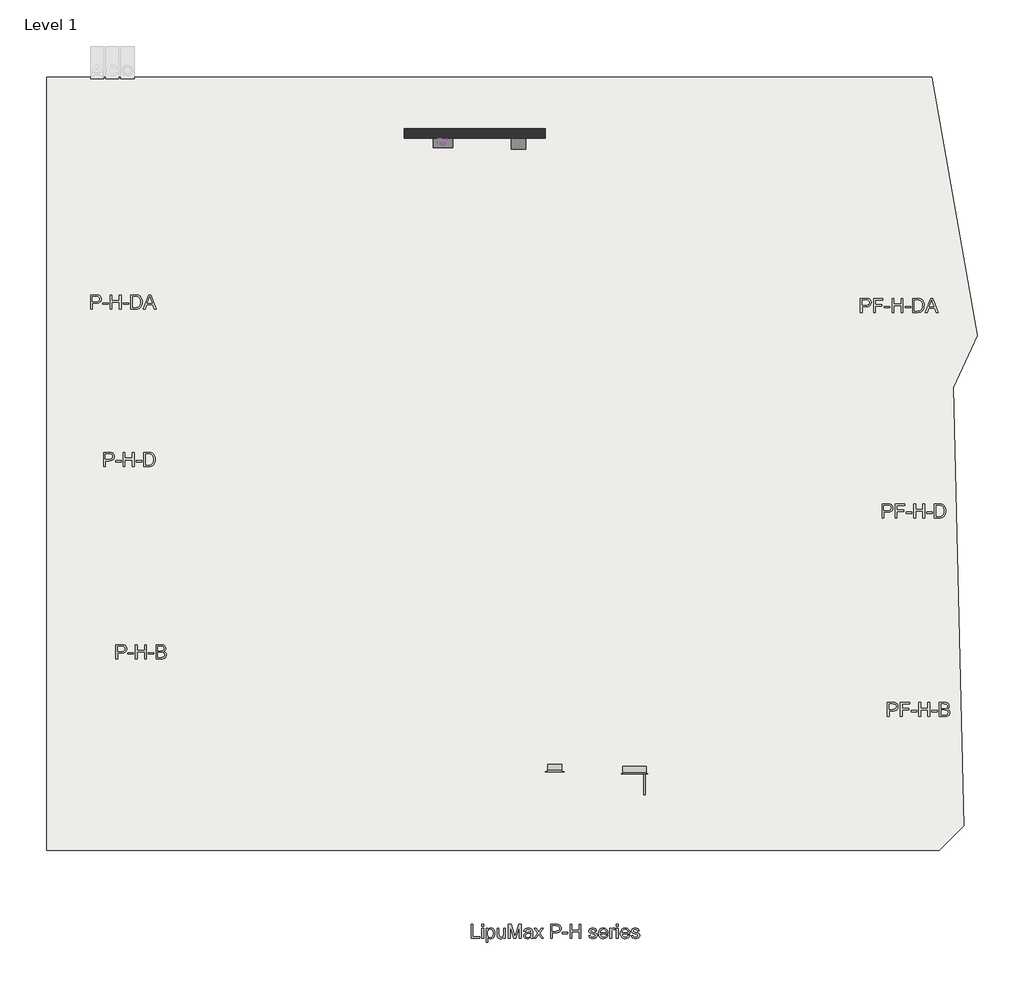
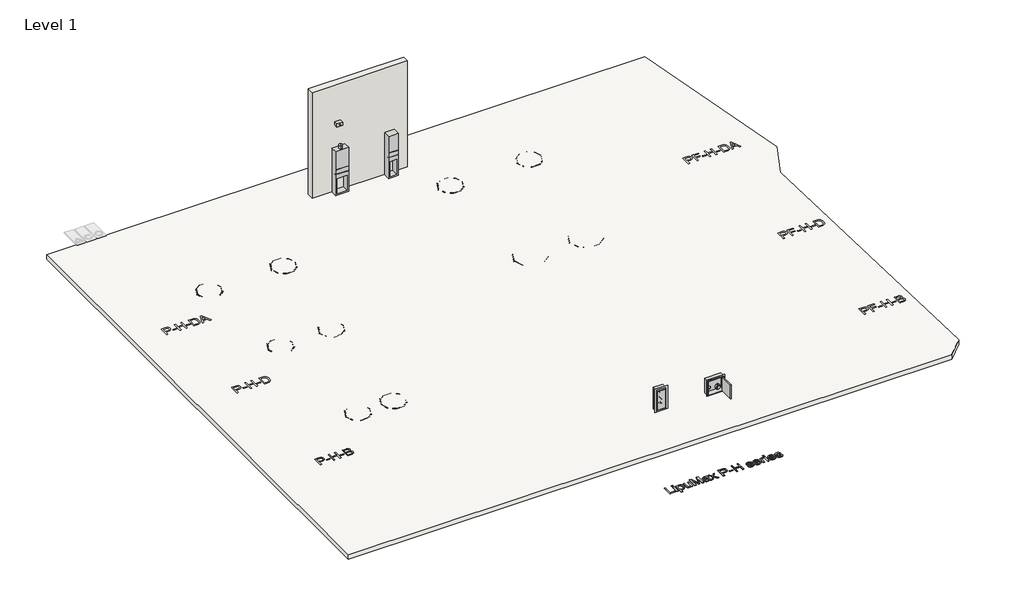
# One storey, part 1 of 2: 23 unitary equipment elements, 4 furniture elements, 4 proxies, 1 alarm, 1 slab, 1 wall.
"""IFC4 building model written with IfcOpenShell, lengths in millimetres."""

from ifc_helpers import new_model, si_unit, frame, origin, origin_with_axes, place, context, project, spatial, polyline, outline, extrude, transform, mapped, element, save
from components import std_nested_414b5e36, message_system_with_gsm_module_9e46706c, std_nested_7b1f1c58, furniture_300_x_725_x_160_cc6d1901, furniture_500x500x160_e2bdd59b, cabinet_for_multi_control_duo_19fc9964, open_air_cabinet_heating_thermostat_9f62fe86, ns_20_1f6e9076, std_nested_3f0f99d6, std_nested_ab5ed908, std_nested_1232a2d1, std_nested_dfdc8ccc, std_nested_e97de6b5, std_nested_6977cd49, std_nested_bba80288, std_nested_8366b505

model = new_model("IFC4")

# Units and contexts
model_context = context("Model", 3, world=origin())
ifc_project = project(units=[si_unit("LENGTHUNIT", "METRE", prefix="MILLI")], contexts=[model_context])

# Site, building, storey
site = spatial("IfcSite", under=ifc_project)
building = spatial("IfcBuilding", under=site)
storey = spatial("IfcBuildingStorey", under=building, Name="Level 1", Elevation=0.0)

# Alarm
placement = place(None, origin())
std_nested_shape = std_nested_414b5e36(model_context)
element("IfcAlarm", 1, ObjectType="ZZZ_do not use_CD_WPB_flashing light_ACO : std(nested)", at=placement, inside=storey, context=model_context, shape_type="MappedRepresentation", body=[
    mapped(std_nested_shape, transform((5030.9983347, 8722.4409453, 1415.0), x_axis=(1.0, 0.0, 0.0), y_axis=(0.0, 1.0, 0.0), z_axis=(0.0, 0.0, 1.0))),
])

# Proxies
element("IfcBuildingElementProxy", 2, Name="100mm ACO", ObjectType="100mm ACO", at=placement, inside=storey, context=model_context, shape_type="SweptSolid", body=[
    extrude(outline(polyline([(-1925.2265985, -1934.5372558), (-1812.8422957, -1934.5372558), (-1767.0400645, -1937.1780271), (-1748.5113736, -1941.929251), (-1731.3680054, -1950.90138), (-1716.9195227, -1963.96454), (-1706.4754884, -1980.988857), (-1700.1441308, -2000.4374888), (-1698.0336783, -2020.7735929), (-1699.6976889, -2040.3980956), (-1704.6897209, -2057.9716715), (-1713.0097741, -2073.4943204), (-1724.6578486, -2086.9660424), (-1739.9748637, -2097.8565185), (-1759.3017385, -2105.6354301), (-1782.6384732, -2110.302777), (-1809.9850677, -2111.8585593), (-1886.4375633, -2111.8585593), (-1886.4375633, -2233.7669555), (-1925.2265985, -2233.7669555), (-1925.2265985, -1934.5372558)]), holes=[polyline([(-1886.4375633, -2078.6108149), (-1808.4265797, -2078.6108149), (-1777.0998882, -2075.066337), (-1754.72368, -2064.4329031), (-1741.2979551, -2046.7105133), (-1736.8227134, -2021.8991675), (-1739.1496226, -2004.3770002), (-1746.1303502, -1989.0410451), (-1756.4986247, -1977.482259), (-1768.9881745, -1971.2915982), (-1809.2924063, -1967.7850002), (-1886.4375633, -1967.7850002), (-1886.4375633, -2078.6108149)])]), origin_with_axes(), (0.0, 0.0, 1.0), 10.0),
    extrude(outline(polyline([(-1553.9601191, -2134.0237223), (-1670.3272246, -2134.0237223), (-1670.3272246, -2106.3172686), (-1553.9601191, -2106.3172686), (-1553.9601191, -2134.0237223)])), origin_with_axes(), (0.0, 0.0, 1.0), 10.0),
    extrude(outline(polyline([(-1276.8955823, -2233.7669555), (-1315.6846174, -2233.7669555), (-1315.6846174, -2089.6933964), (-1470.8407581, -2089.6933964), (-1470.8407581, -2233.7669555), (-1509.6297932, -2233.7669555), (-1509.6297932, -1934.5372558), (-1470.8407581, -1934.5372558), (-1470.8407581, -2056.445652), (-1315.6846174, -2056.445652), (-1315.6846174, -1934.5372558), (-1276.8955823, -1934.5372558), (-1276.8955823, -2233.7669555)])), origin_with_axes(), (0.0, 0.0, 1.0), 10.0),
    extrude(outline(polyline([(-1116.1981509, -2134.0237223), (-1232.5652564, -2134.0237223), (-1232.5652564, -2106.3172686), (-1116.1981509, -2106.3172686), (-1116.1981509, -2134.0237223)])), origin_with_axes(), (0.0, 0.0, 1.0), 10.0),
    extrude(outline(polyline([(-907.966835, -2075.7535869), (-882.619759, -2086.9011054), (-864.5889184, -2103.3734579), (-853.8093763, -2123.9584872), (-850.2161956, -2147.4440358), (-853.3115259, -2171.3624978), (-862.597517, -2193.246267), (-877.5871414, -2211.3528674), (-897.7933715, -2223.9398228), (-924.666467, -2231.3101724), (-959.6566876, -2233.7669555), (-1071.867825, -2233.7669555), (-1071.867825, -1934.5372558), (-963.0334116, -1934.5372558), (-938.5711023, -1936.0308068), (-917.9996016, -1940.5114598), (-901.3189095, -1947.9792149), (-888.529026, -1958.4340721), (-872.2623073, -1983.6512741), (-866.8400678, -2011.5092474), (-869.3942565, -2030.514143), (-877.0568226, -2048.0471332), (-889.8927031, -2063.3722654), (-907.966835, -2075.7535869)]), holes=[polyline([(-1033.0787899, -2200.5192111), (-959.3103569, -2200.5192111), (-925.7920417, -2197.0234359), (-904.3736542, -2186.5361103), (-892.8473366, -2169.8797696), (-889.0052307, -2147.8769491), (-893.0962618, -2125.7659004), (-905.3693549, -2109.1312053), (-928.3137619, -2098.7088167), (-964.4187343, -2095.2346871), (-1033.0787899, -2095.2346871), (-1033.0787899, -2200.5192111)]), polyline([(-1033.0787899, -2061.9869427), (-970.8258517, -2061.9869427), (-938.6170993, -2059.6492107), (-926.3764747, -2055.3741915), (-915.629401, -2047.2245979), (-908.1291775, -2034.3562489), (-905.6291029, -2015.9249635), (-908.1508231, -1996.5845601), (-915.7159837, -1983.066841), (-926.7769195, -1974.5276254), (-939.7859654, -1970.1227322), (-975.6744811, -1967.7850002), (-1033.0787899, -1967.7850002), (-1033.0787899, -2061.9869427)])]), origin_with_axes(), (0.0, 0.0, 1.0), 10.0),
])
element("IfcBuildingElementProxy", 3, Name="100mm ACO", ObjectType="100mm ACO", at=placement, inside=storey, context=model_context, shape_type="SweptSolid", body=[
    extrude(outline(polyline([(5812.0372031, -8180.9782703), (5623.6333181, -8180.9782703), (5623.6333181, -7881.7485706), (5662.4223532, -7881.7485706), (5662.4223532, -8147.7305259), (5812.0372031, -8147.7305259), (5812.0372031, -8180.9782703)])), origin_with_axes(), (0.0, 0.0, 1.0), 10.0),
    extrude(outline(polyline([(5889.6152734, -7920.5376057), (5850.8262383, -7920.5376057), (5850.8262383, -7881.7485706), (5889.6152734, -7881.7485706), (5889.6152734, -7920.5376057)])), origin_with_axes(), (0.0, 0.0, 1.0), 10.0),
    extrude(outline(polyline([(5889.6152734, -8180.9782703), (5850.8262383, -8180.9782703), (5850.8262383, -7964.8679316), (5889.6152734, -7964.8679316), (5889.6152734, -8180.9782703)])), origin_with_axes(), (0.0, 0.0, 1.0), 10.0),
    extrude(outline(polyline([(5984.206838, -7990.9293146), (5995.803504, -7977.1031448), (6009.5106226, -7967.2273093), (6025.7178157, -7961.301808), (6044.4250834, -7959.3266409), (6063.949475, -7961.2639281), (6081.3092999, -7967.0757896), (6096.5045581, -7976.7622256), (6109.5352496, -7990.3232359), (6119.9901067, -8006.9958109), (6127.4578618, -8026.0169407), (6131.9385148, -8047.3866254), (6133.4320659, -8071.1048649), (6131.7437038, -8096.23819), (6126.6786178, -8118.6495724), (6118.2368077, -8138.3390122), (6106.4182735, -8155.3065093), (6092.1429562, -8168.9622195), (6076.3307965, -8178.7162981), (6058.9817944, -8184.5687453), (6040.09595, -8186.5195611), (6023.721003, -8184.9286046), (6009.0560636, -8180.155735), (5996.101132, -8172.2009524), (5984.856208, -8161.0642568), (5983.817216, -8264.0976314), (5945.0281808, -8264.0976314), (5945.0281808, -7964.8679316), (5983.817216, -7964.8679316), (5984.206838, -7990.9293146)]), holes=[polyline([(6035.8533993, -8158.8131074), (6059.1116684, -8153.3475765), (6077.9758672, -8136.9509838), (6090.4762398, -8109.7315576), (6094.6430307, -8071.7975263), (6090.6277595, -8035.6600853), (6078.5819458, -8008.9818008), (6060.2805344, -7992.5202711), (6037.49847, -7987.0330946), (6025.130677, -7988.5618198), (6013.9155159, -7993.1479955), (5994.9430888, -8011.4926982), (5982.4427161, -8039.577951), (5978.2759252, -8074.9145023), (5982.2695508, -8111.1601716), (5994.2504274, -8137.4704798), (6012.6384215, -8153.4774505), (6035.8533993, -8158.8131074)])]), origin_with_axes(), (0.0, 0.0, 1.0), 10.0),
    extrude(outline(polyline([(6355.0836953, -8180.9782703), (6321.8359509, -8180.9782703), (6321.8359509, -8149.5487619), (6307.1385431, -8165.7234866), (6291.1856865, -8177.2768613), (6272.9383893, -8184.2088861), (6252.3966514, -8186.5195611), (6230.4046538, -8183.8896125), (6210.1443095, -8175.9997669), (6193.9749963, -8163.4993943), (6184.2560918, -8147.0378646), (6179.3858168, -8125.8467566), (6177.7623918, -8099.1576493), (6177.7623918, -7964.8679316), (6216.5514269, -7964.8679316), (6216.5514269, -8087.4689892), (6219.2354896, -8129.6347484), (6224.084119, -8141.2368258), (6233.2618818, -8150.587754), (6245.6864946, -8156.756769), (6260.2756741, -8158.8131074), (6279.9407625, -8155.133344), (6298.4153393, -8144.0940539), (6306.2375422, -8134.7647714), (6311.8248299, -8121.4959776), (6316.2946602, -8083.1398558), (6316.2946602, -7964.8679316), (6355.0836953, -7964.8679316), (6355.0836953, -8180.9782703)])), origin_with_axes(), (0.0, 0.0, 1.0), 10.0),
    extrude(outline(polyline([(6693.1024303, -8180.9782703), (6654.3133951, -8180.9782703), (6654.3133951, -7930.2348645), (6577.9474821, -8180.9782703), (6536.7341323, -8180.9782703), (6455.9525033, -7926.1654791), (6454.8269286, -8180.9782703), (6416.0378934, -8180.9782703), (6416.0378934, -7881.7485706), (6475.0006902, -7881.7485706), (6543.314415, -8093.7895239), (6556.5615632, -8138.1198498), (6571.5403647, -8090.1530519), (6635.4383735, -7881.7485706), (6693.1024303, -7881.7485706), (6693.1024303, -8180.9782703)])), origin_with_axes(), (0.0, 0.0, 1.0), 10.0),
    extrude(outline(polyline([(6942.4605134, -8180.9782703), (6903.6714783, -8180.9782703), (6897.0046128, -8169.4627755), (6892.5888968, -8154.8303047), (6874.2604283, -8168.6943543), (6855.20683, -8178.597247), (6835.4281018, -8184.5389825), (6814.9242438, -8186.5195611), (6785.0424006, -8182.1904277), (6762.2386905, -8169.2030275), (6747.7902078, -8149.1158486), (6742.9740469, -8123.4873789), (6747.6928023, -8098.6273305), (6761.8490685, -8078.5942657), (6787.6723491, -8063.950972), (6827.392148, -8055.2602367), (6861.3325537, -8050.0652767), (6892.5888968, -8042.4460019), (6891.5931961, -8018.4193116), (6885.7921574, -8003.8301321), (6870.3371512, -7991.6652673), (6841.6782881, -7987.0330946), (6821.2123101, -7989.3816494), (6805.5300244, -7996.427314), (6794.3283917, -8009.8584503), (6787.3043728, -8031.3634204), (6748.5153376, -8026.6013737), (6759.1541829, -7997.2498493), (6779.1223107, -7976.2102611), (6808.3980752, -7963.5475459), (6846.9598309, -7959.3266409), (6880.9759965, -7962.2163374), (6904.5805963, -7970.885427), (6919.4295238, -7983.6347248), (6927.1786726, -7998.765046), (6931.3779319, -8040.8009312), (6931.3779319, -8090.2396345), (6933.0230026, -8150.847502), (6942.4605134, -8180.9782703)]), holes=[polyline([(6892.5888968, -8084.0056824), (6892.5888968, -8070.1524556), (6860.9321089, -8079.157053), (6822.9331406, -8086.0836665), (6804.92124, -8090.5913766), (6792.0555967, -8098.2268856), (6784.3362107, -8108.9901935), (6781.7630821, -8122.8813003), (6784.5337274, -8137.1674404), (6792.8456635, -8148.6829353), (6806.3742054, -8156.2805644), (6824.7946679, -8158.8131074), (6850.0443384, -8154.5705567), (6872.1120959, -8141.8429045), (6881.0706963, -8131.864252), (6887.4696966, -8118.8984976), (6892.5888968, -8084.0056824)])]), origin_with_axes(), (0.0, 0.0, 1.0), 10.0),
    extrude(outline(polyline([(7164.1121429, -8180.9782703), (7125.0633597, -8180.9782703), (7064.4554923, -8096.3004213), (7003.8476249, -8180.9782703), (6964.6256764, -8180.9782703), (7044.714644, -8069.0268809), (6970.1669671, -7964.8679316), (7009.2157503, -7964.8679316), (7064.282327, -8041.6667579), (7119.262321, -7964.8679316), (7158.5708521, -7964.8679316), (7083.9365925, -8069.1134636), (7164.1121429, -8180.9782703)])), origin_with_axes(), (0.0, 0.0, 1.0), 10.0),
    extrude(outline(polyline([(7313.7269928, -7881.7485706), (7426.1112955, -7881.7485706), (7471.9135268, -7884.3893419), (7490.4422177, -7889.1405658), (7507.5855859, -7898.1126948), (7522.0340686, -7911.1758548), (7532.4781029, -7928.2001718), (7538.8094605, -7947.6488036), (7540.919913, -7967.9849076), (7539.2559023, -7987.6094104), (7534.2638704, -8005.1829863), (7525.9438172, -8020.7056352), (7514.2957426, -8034.1773571), (7498.9787276, -8045.0678333), (7479.6518527, -8052.8467449), (7456.315118, -8057.5140918), (7428.9685236, -8059.0698741), (7352.5160279, -8059.0698741), (7352.5160279, -8180.9782703), (7313.7269928, -8180.9782703), (7313.7269928, -7881.7485706)]), holes=[polyline([(7352.5160279, -8025.8221297), (7430.5270116, -8025.8221297), (7461.8537031, -8022.2776517), (7484.2299113, -8011.6442179), (7497.6556362, -7993.9218281), (7502.1308778, -7969.1104823), (7499.8039686, -7951.5883149), (7492.823241, -7936.2523599), (7482.4549666, -7924.6935738), (7469.9654167, -7918.502913), (7429.6611849, -7914.996315), (7352.5160279, -7914.996315), (7352.5160279, -8025.8221297)])]), origin_with_axes(), (0.0, 0.0, 1.0), 10.0),
    extrude(outline(polyline([(7684.9934721, -8081.2350371), (7568.6263667, -8081.2350371), (7568.6263667, -8053.5285834), (7684.9934721, -8053.5285834), (7684.9934721, -8081.2350371)])), origin_with_axes(), (0.0, 0.0, 1.0), 10.0),
    extrude(outline(polyline([(7962.058009, -8180.9782703), (7923.2689738, -8180.9782703), (7923.2689738, -8036.9047112), (7768.1128332, -8036.9047112), (7768.1128332, -8180.9782703), (7729.323798, -8180.9782703), (7729.323798, -7881.7485706), (7768.1128332, -7881.7485706), (7768.1128332, -8003.6569668), (7923.2689738, -8003.6569668), (7923.2689738, -7881.7485706), (7962.058009, -7881.7485706), (7962.058009, -8180.9782703)])), origin_with_axes(), (0.0, 0.0, 1.0), 10.0),
    extrude(outline(polyline([(8261.2877087, -8025.8221297), (8256.4931935, -8008.8519268), (8246.9582772, -7996.7303533), (8232.7262512, -7989.4574092), (8213.8404068, -7987.0330946), (8194.9004482, -7989.1110786), (8179.9865837, -7995.3450307), (8170.3109706, -8005.5401398), (8167.0857662, -8019.501595), (8169.2178644, -8032.3374755), (8175.614159, -8040.8875139), (8189.9327677, -8046.991592), (8215.8318082, -8052.4895914), (8268.8636922, -8064.9574955), (8284.3078755, -8073.0637978), (8295.9207759, -8083.8758084), (8303.1937199, -8098.4325195), (8305.6180346, -8117.7729229), (8304.1136608, -8131.7046153), (8299.6005392, -8144.4944987), (8281.548053, -8166.6488388), (8253.4303316, -8181.5518805), (8217.2171309, -8186.5195611), (8179.8891782, -8182.3419474), (8151.7173427, -8169.8091062), (8132.6799786, -8148.9426833), (8122.7554403, -8119.7643242), (8161.5444755, -8114.4827815), (8167.1615261, -8133.9314132), (8178.2982217, -8147.7738172), (8194.9762081, -8156.0532849), (8217.2171309, -8158.8131074), (8238.4082388, -8155.9450565), (8254.0147647, -8147.3409039), (8263.6254408, -8134.6240746), (8266.8289995, -8119.4179936), (8265.3895626, -8109.3635813), (8261.0712521, -8101.5386727), (8246.6985292, -8091.4517919), (8206.0479667, -8082.7935251), (8166.6203844, -8073.1395576), (8143.4054066, -8059.4162048), (8132.0738999, -8042.1213169), (8128.2967311, -8021.7527443), (8133.892136, -7996.9576328), (8150.6783507, -7976.9462138), (8176.9237218, -7963.7315341), (8210.8965961, -7959.3266409), (8246.6011237, -7963.1795696), (8273.3659909, -7974.7383557), (8291.1911976, -7993.9813536), (8300.0767439, -8020.8869176), (8261.2877087, -8025.8221297)])), origin_with_axes(), (0.0, 0.0, 1.0), 10.0),
    extrude(outline(polyline([(8532.8109548, -8081.2350371), (8372.1135235, -8081.2350371), (8378.3150071, -8114.5260728), (8392.4171591, -8138.8990938), (8412.7099718, -8153.834604), (8437.4834376, -8158.8131074), (8456.6073844, -8156.0532849), (8472.4195441, -8147.7738172), (8484.8982711, -8133.9314132), (8494.0219197, -8114.4827815), (8532.8109548, -8118.9850802), (8519.7153263, -8147.7738172), (8498.9571317, -8169.0298622), (8471.2939694, -8182.1471364), (8437.4834376, -8186.5195611), (8414.3198683, -8184.6445052), (8393.8349503, -8179.0193375), (8376.0286835, -8169.644058), (8360.901068, -8156.5186667), (8348.8363144, -8140.1464254), (8340.2186332, -8121.0305957), (8335.0480246, -8099.1711778), (8333.3244883, -8074.5681717), (8334.9857933, -8050.108568), (8339.9697081, -8028.0732791), (8348.2762328, -8008.4623048), (8359.9053673, -7991.2756453), (8374.5540724, -7977.2979558), (8391.9193087, -7967.313892), (8412.0010762, -7961.3234536), (8434.7993749, -7959.3266409), (8458.0035299, -7961.9132981), (8480.3418582, -7969.6732697), (8500.5913796, -7983.6563705), (8517.529114, -8004.9124154), (8528.9904946, -8036.4393293), (8532.8109548, -8081.2350371)]), holes=[polyline([(8494.0219197, -8053.5285834), (8487.7879676, -8023.138067), (8473.5884101, -8002.6179747), (8454.5618689, -7990.9293146), (8433.8469656, -7987.0330946), (8410.3397713, -7991.6652673), (8391.4214584, -8005.5617855), (8378.2825386, -8026.8178304), (8372.1135235, -8053.5285834), (8494.0219197, -8053.5285834)])]), origin_with_axes(), (0.0, 0.0, 1.0), 10.0),
    extrude(outline(polyline([(8693.5083862, -7967.8117423), (8681.3868127, -7992.5743853), (8655.9315084, -7987.0330946), (8638.5933292, -7991.9033696), (8626.060488, -8006.5141948), (8618.4628589, -8029.8915151), (8615.9303159, -8061.0612755), (8615.9303159, -8180.9782703), (8577.1412807, -8180.9782703), (8577.1412807, -7964.8679316), (8610.3890252, -7964.8679316), (8610.3890252, -7996.9035187), (8620.4867288, -7980.4636346), (8631.1255741, -7968.7208603), (8643.0848051, -7961.6751957), (8656.3644217, -7959.3266409), (8674.871467, -7961.4479162), (8693.5083862, -7967.8117423)])), origin_with_axes(), (0.0, 0.0, 1.0), 10.0),
    extrude(outline(polyline([(8754.4625843, -7920.5376057), (8715.6735492, -7920.5376057), (8715.6735492, -7881.7485706), (8754.4625843, -7881.7485706), (8754.4625843, -7920.5376057)])), origin_with_axes(), (0.0, 0.0, 1.0), 10.0),
    extrude(outline(polyline([(8754.4625843, -8180.9782703), (8715.6735492, -8180.9782703), (8715.6735492, -7964.8679316), (8754.4625843, -7964.8679316), (8754.4625843, -8180.9782703)])), origin_with_axes(), (0.0, 0.0, 1.0), 10.0),
    extrude(outline(polyline([(8998.2793767, -8081.2350371), (8837.5819454, -8081.2350371), (8843.7834289, -8114.5260728), (8857.885581, -8138.8990938), (8878.1783937, -8153.834604), (8902.9518595, -8158.8131074), (8922.0758063, -8156.0532849), (8937.887966, -8147.7738172), (8950.366693, -8133.9314132), (8959.4903416, -8114.4827815), (8998.2793767, -8118.9850802), (8985.1837482, -8147.7738172), (8964.4255536, -8169.0298622), (8936.7623913, -8182.1471364), (8902.9518595, -8186.5195611), (8879.7882902, -8184.6445052), (8859.3033721, -8179.0193375), (8841.4971054, -8169.644058), (8826.3694899, -8156.5186667), (8814.3047363, -8140.1464254), (8805.6870551, -8121.0305957), (8800.5164464, -8099.1711778), (8798.7929102, -8074.5681717), (8800.4542151, -8050.108568), (8805.43813, -8028.0732791), (8813.7446546, -8008.4623048), (8825.3737892, -7991.2756453), (8840.0224943, -7977.2979558), (8857.3877306, -7967.313892), (8877.4694981, -7961.3234536), (8900.2677968, -7959.3266409), (8923.4719518, -7961.9132981), (8945.8102801, -7969.6732697), (8966.0598015, -7983.6563705), (8982.9975359, -8004.9124154), (8994.4589165, -8036.4393293), (8998.2793767, -8081.2350371)]), holes=[polyline([(8959.4903416, -8053.5285834), (8953.2563895, -8023.138067), (8939.056832, -8002.6179747), (8920.0302907, -7990.9293146), (8899.3153875, -7987.0330946), (8875.8081932, -7991.6652673), (8856.8898803, -8005.5617855), (8843.7509604, -8026.8178304), (8837.5819454, -8053.5285834), (8959.4903416, -8053.5285834)])]), origin_with_axes(), (0.0, 0.0, 1.0), 10.0),
    extrude(outline(polyline([(9164.5180988, -8025.8221297), (9159.7235836, -8008.8519268), (9150.1886673, -7996.7303533), (9135.9566413, -7989.4574092), (9117.0707969, -7987.0330946), (9098.1308383, -7989.1110786), (9083.2169738, -7995.3450307), (9073.5413607, -8005.5401398), (9070.3161563, -8019.501595), (9072.4482545, -8032.3374755), (9078.8445491, -8040.8875139), (9093.1631578, -8046.991592), (9119.0621983, -8052.4895914), (9172.0940823, -8064.9574955), (9187.5382656, -8073.0637978), (9199.1511659, -8083.8758084), (9206.42411, -8098.4325195), (9208.8484247, -8117.7729229), (9207.3440509, -8131.7046153), (9202.8309293, -8144.4944987), (9184.7784431, -8166.6488388), (9156.6607217, -8181.5518805), (9120.4475209, -8186.5195611), (9083.1195683, -8182.3419474), (9054.9477328, -8169.8091062), (9035.9103687, -8148.9426833), (9025.9858304, -8119.7643242), (9064.7748656, -8114.4827815), (9070.3919161, -8133.9314132), (9081.5286118, -8147.7738172), (9098.2065982, -8156.0532849), (9120.4475209, -8158.8131074), (9141.6386289, -8155.9450565), (9157.2451547, -8147.3409039), (9166.8558309, -8134.6240746), (9170.0593896, -8119.4179936), (9168.6199527, -8109.3635813), (9164.3016422, -8101.5386727), (9149.9289193, -8091.4517919), (9109.2783568, -8082.7935251), (9069.8507745, -8073.1395576), (9046.6357967, -8059.4162048), (9035.30429, -8042.1213169), (9031.5271211, -8021.7527443), (9037.122526, -7996.9576328), (9053.9087408, -7976.9462138), (9080.1541119, -7963.7315341), (9114.1269862, -7959.3266409), (9149.8315138, -7963.1795696), (9176.596381, -7974.7383557), (9194.4215877, -7993.9813536), (9203.307134, -8020.8869176), (9164.5180988, -8025.8221297)])), origin_with_axes(), (0.0, 0.0, 1.0), 10.0),
])
message_system_with_gsm_module_shape = message_system_with_gsm_module_9e46706c(model_context)
element("IfcBuildingElementProxy", 4, Name="CD_WPB_signalling device_ACO : message system with GSM module", ObjectType="CD_WPB_signalling device_ACO : message system with GSM module", at=placement, inside=storey, context=model_context, shape_type="MappedRepresentation", body=[
    mapped(message_system_with_gsm_module_shape, transform((5005.9983347, 8780.4176338, 2200.0), x_axis=(1.0, 0.0, 0.0), y_axis=(0.0, 1.0, 0.0), z_axis=(0.0, 0.0, 1.0))),
])
std_nested_2_shape = std_nested_7b1f1c58(model_context)
element("IfcBuildingElementProxy", 5, Name="ZZZ_do not use_CD_WPB_remote control_ACO : std(nested)", ObjectType="ZZZ_do not use_CD_WPB_remote control_ACO : std(nested)", at=placement, inside=storey, context=model_context, shape_type="MappedRepresentation", body=[
    mapped(std_nested_2_shape, transform((7400.0, -4481.5823662, 560.0), x_axis=(1.0, 0.0, 0.0), y_axis=(0.0, 0.0, 1.0), z_axis=(0.0, -1.0, 0.0))),
])

# Furniture
furniture_300_x_725_x_160_shape = furniture_300_x_725_x_160_cc6d1901(model_context)
element("IfcFurniture", 6, ObjectType="ME_UN_connection box double connection_ACO : 300 x 725 x 160", at=placement, inside=storey, context=model_context, shape_type="MappedRepresentation", body=[
    mapped(furniture_300_x_725_x_160_shape, transform((7400.0, -4639.5823662, 0.0), x_axis=(1.0, 0.0, 0.0), y_axis=(0.0, 1.0, 0.0), z_axis=(0.0, 0.0, 1.0))),
])
furniture_500x500x160_shape = furniture_500x500x160_e2bdd59b(model_context)
element("IfcFurniture", 7, ObjectType="ME_UN_connection box single connection_ACO : 500x500x160", at=placement, inside=storey, context=model_context, shape_type="MappedRepresentation", body=[
    mapped(furniture_500x500x160_shape, transform((9100.0, -4679.5823662, 0.0), x_axis=(1.0, 0.0, 0.0), y_axis=(0.0, 1.0, 0.0), z_axis=(0.0, 0.0, 1.0))),
])
cabinet_for_multi_control_duo_shape = cabinet_for_multi_control_duo_19fc9964(model_context)
element("IfcFurniture", 8, ObjectType="ME_UN_outdoor cabinet_ACO : cabinet for multi control duo", at=placement, inside=storey, context=model_context, shape_type="MappedRepresentation", body=[
    mapped(cabinet_for_multi_control_duo_shape, transform((5030.9983347, 8633.4176338, 600.0), x_axis=(1.0, 0.0, 0.0), y_axis=(0.0, 1.0, 0.0), z_axis=(0.0, 0.0, 1.0))),
])
open_air_cabinet_heating_thermostat_shape = open_air_cabinet_heating_thermostat_9f62fe86(model_context)
element("IfcFurniture", 9, ObjectType="ME_UN_outdoor cabinet_ACO : open air cabinet heating+thermostat", at=placement, inside=storey, context=model_context, shape_type="MappedRepresentation", body=[
    mapped(open_air_cabinet_heating_thermostat_shape, transform((6630.9983347, 8610.4176338, 600.0), x_axis=(1.0, 0.0, 0.0), y_axis=(0.0, 1.0, 0.0), z_axis=(0.0, 0.0, 1.0))),
])

# Slab
element("IfcSlab", 10, ObjectType="Floor 1", at=placement, inside=storey, context=model_context, shape_type="SweptSolid", body=[
    extrude(outline(polyline([(15421.8519897, 10135.8030269), (16390.4536383, 4642.5901069), (15874.6849204, 3536.5205219), (16100.2555399, -5782.2158296), (15577.261983, -6305.2093865), (-3400.0, -6305.2093865), (-3400.0, 10135.8030269), (15421.8519897, 10135.8030269)])), frame((0.0, 0.0, -150.0), z_axis=(0.0, 0.0, 1.0), x_axis=(1.0, 0.0, 0.0)), (0.0, 0.0, 1.0), 150.0),
])

# Unitary equipment
ns_20_shape = ns_20_1f6e9076(model_context)
element("IfcUnitaryEquipment", 11, ObjectType="ME_UN_lipumax-PF-H-DA_ACO : NS-20", at=placement, inside=storey, context=model_context, shape_type="MappedRepresentation", body=[
    mapped(ns_20_shape, transform((9019.1871609, 7490.9414056, 0.0), x_axis=(1.0, 0.0, 0.0), y_axis=(0.0, 1.0, 0.0), z_axis=(0.0, 0.0, 1.0))),
])
std_nested_3_shape = std_nested_3f0f99d6(model_context)
element("IfcUnitaryEquipment", 12, ObjectType="ZZZ_do not use_ME_UN_concrete_bearing ring_ACO : std(nested)", at=placement, inside=storey, context=model_context, shape_type="MappedRepresentation", body=[
    mapped(std_nested_3_shape, transform((199.0702336, -600.0108111, -90.0), x_axis=(1.0, 0.0, 0.0), y_axis=(0.0, 1.0, 0.0), z_axis=(0.0, 0.0, 1.0))),
])
element("IfcUnitaryEquipment", 13, ObjectType="ZZZ_do not use_ME_UN_concrete_bearing ring_ACO : std(nested)", at=placement, inside=storey, context=model_context, shape_type="MappedRepresentation", body=[
    mapped(std_nested_3_shape, transform((1314.0702336, -596.2608111, -90.0), x_axis=(1.0, 0.0, 0.0), y_axis=(0.0, 1.0, 0.0), z_axis=(0.0, 0.0, 1.0))),
])
std_nested_4_shape = std_nested_ab5ed908(model_context)
element("IfcUnitaryEquipment", 14, ObjectType="ZZZ_do not use_ME_WPB_top sections_plastic_ACO : std(nested)", at=placement, inside=storey, context=model_context, shape_type="MappedRepresentation", body=[
    mapped(std_nested_4_shape, transform((8596.4424315, -686.5410478, -57.7350269), x_axis=(1.0, 0.0, 0.0), y_axis=(0.0, 1.0, 0.0), z_axis=(0.0, 0.0, 1.0))),
])
std_nested_5_shape = std_nested_1232a2d1(model_context)
element("IfcUnitaryEquipment", 15, ObjectType="ZZZ_do not use_ME_WPB_top sections_plastic_ACO : std(nested)", at=placement, inside=storey, context=model_context, shape_type="MappedRepresentation", body=[
    mapped(std_nested_5_shape, transform((9851.4424315, -686.5410478, -57.7350269), x_axis=(1.0, 0.0, 0.0), y_axis=(0.0, 1.0, 0.0), z_axis=(0.0, 0.0, 1.0))),
])
std_nested_6_shape = std_nested_dfdc8ccc(model_context)
element("IfcUnitaryEquipment", 16, ObjectType="ZZZ_do not use_ME_WPB_top sections_plastic_ACO : std(nested)", at=placement, inside=storey, context=model_context, shape_type="MappedRepresentation", body=[
    mapped(std_nested_6_shape, transform((7779.1871609, 7490.9414056, 0.0), x_axis=(1.0, 0.0, 0.0), y_axis=(0.0, 1.0, 0.0), z_axis=(0.0, 0.0, 1.0))),
])
element("IfcUnitaryEquipment", 17, ObjectType="ZZZ_do not use_ME_WPB_top sections_plastic_ACO : std(nested)", at=placement, inside=storey, context=model_context, shape_type="MappedRepresentation", body=[
    mapped(std_nested_6_shape, transform((10259.1871609, 7490.9414056, 0.0), x_axis=(1.0, 0.0, 0.0), y_axis=(0.0, 1.0, 0.0), z_axis=(0.0, 0.0, 1.0))),
])
std_nested_7_shape = std_nested_e97de6b5(model_context)
element("IfcUnitaryEquipment", 18, ObjectType="ZZZ_do not use_ME_WPB_top sections_plastic_ACO : std(nested)", at=placement, inside=storey, context=model_context, shape_type="MappedRepresentation", body=[
    mapped(std_nested_7_shape, transform((7986.6871609, 3515.9310141, 0.0), x_axis=(1.0, 0.0, 0.0), y_axis=(0.0, 1.0, 0.0), z_axis=(0.0, 0.0, 1.0))),
])
element("IfcUnitaryEquipment", 19, ObjectType="ZZZ_do not use_ME_WPB_top sections_plastic_ACO : std(nested)", at=placement, inside=storey, context=model_context, shape_type="MappedRepresentation", body=[
    mapped(std_nested_7_shape, transform((9731.6871609, 3515.9310141, 0.0), x_axis=(1.0, 0.0, 0.0), y_axis=(0.0, 1.0, 0.0), z_axis=(0.0, 0.0, 1.0))),
])
std_nested_8_shape = std_nested_6977cd49(model_context)
element("IfcUnitaryEquipment", 20, ObjectType="ZZZ_do not use_ME_WPB_manhole covers_ACO : std(nested)", at=placement, inside=storey, context=model_context, shape_type="MappedRepresentation", body=[
    mapped(std_nested_8_shape, transform((199.0702336, -600.0108111, 0.0), x_axis=(1.0, 0.0, 0.0), y_axis=(0.0, 1.0, 0.0), z_axis=(0.0, 0.0, 1.0))),
])
element("IfcUnitaryEquipment", 21, ObjectType="ZZZ_do not use_ME_WPB_manhole covers_ACO : std(nested)", at=placement, inside=storey, context=model_context, shape_type="MappedRepresentation", body=[
    mapped(std_nested_8_shape, transform((1314.0702336, -596.2608111, 0.0), x_axis=(1.0, 0.0, 0.0), y_axis=(0.0, 1.0, 0.0), z_axis=(0.0, 0.0, 1.0))),
])
std_nested_9_shape = std_nested_bba80288(model_context)
element("IfcUnitaryEquipment", 22, ObjectType="ZZZ_do not use_ME_UN_concrete_bearing ring_ACO : std(nested)", at=placement, inside=storey, context=model_context, shape_type="MappedRepresentation", body=[
    mapped(std_nested_9_shape, transform((199.0702336, -600.0108111, -270.0), x_axis=(1.0, 0.0, 0.0), y_axis=(0.0, 1.0, 0.0), z_axis=(0.0, 0.0, 1.0))),
])
element("IfcUnitaryEquipment", 23, ObjectType="ZZZ_do not use_ME_UN_concrete_bearing ring_ACO : std(nested)", at=placement, inside=storey, context=model_context, shape_type="MappedRepresentation", body=[
    mapped(std_nested_9_shape, transform((1314.0702336, -596.2608111, -270.0), x_axis=(1.0, 0.0, 0.0), y_axis=(0.0, 1.0, 0.0), z_axis=(0.0, 0.0, 1.0))),
])
std_nested_10_shape = std_nested_8366b505(model_context)
element("IfcUnitaryEquipment", 24, ObjectType="ZZZ_do not use_ME_UN_concrete_bearing ring_ACO : std(nested)", at=placement, inside=storey, context=model_context, shape_type="MappedRepresentation", body=[
    mapped(std_nested_10_shape, transform((199.0702336, -600.0108111, -160.0), x_axis=(1.0, 0.0, 0.0), y_axis=(0.0, 1.0, 0.0), z_axis=(0.0, 0.0, 1.0))),
])
element("IfcUnitaryEquipment", 25, ObjectType="ZZZ_do not use_ME_UN_concrete_bearing ring_ACO : std(nested)", at=placement, inside=storey, context=model_context, shape_type="MappedRepresentation", body=[
    mapped(std_nested_10_shape, transform((1314.0702336, -596.2608111, -160.0), x_axis=(1.0, 0.0, 0.0), y_axis=(0.0, 1.0, 0.0), z_axis=(0.0, 0.0, 1.0))),
])
element("IfcUnitaryEquipment", 26, ObjectType="ZZZ_do not use_ME_UN_concrete_bearing ring_ACO : std(nested)", at=placement, inside=storey, context=model_context, shape_type="MappedRepresentation", body=[
    mapped(std_nested_10_shape, transform((-45.9297664, 3195.9310141, -90.0), x_axis=(1.0, 0.0, 0.0), y_axis=(0.0, 1.0, 0.0), z_axis=(0.0, 0.0, 1.0))),
])
element("IfcUnitaryEquipment", 27, ObjectType="ZZZ_do not use_ME_UN_concrete_bearing ring_ACO : std(nested)", at=placement, inside=storey, context=model_context, shape_type="MappedRepresentation", body=[
    mapped(std_nested_10_shape, transform((1559.0702336, 3199.6810141, -90.0), x_axis=(1.0, 0.0, 0.0), y_axis=(0.0, 1.0, 0.0), z_axis=(0.0, 0.0, 1.0))),
])
element("IfcUnitaryEquipment", 28, ObjectType="ZZZ_do not use_ME_UN_concrete_bearing ring_ACO : std(nested)", at=placement, inside=storey, context=model_context, shape_type="MappedRepresentation", body=[
    mapped(std_nested_10_shape, transform((-413.4297664, 6450.9414056, -90.0), x_axis=(1.0, 0.0, 0.0), y_axis=(0.0, 1.0, 0.0), z_axis=(0.0, 0.0, 1.0))),
])
element("IfcUnitaryEquipment", 29, ObjectType="ZZZ_do not use_ME_UN_concrete_bearing ring_ACO : std(nested)", at=placement, inside=storey, context=model_context, shape_type="MappedRepresentation", body=[
    mapped(std_nested_10_shape, transform((1926.5702336, 6454.6914056, -90.0), x_axis=(1.0, 0.0, 0.0), y_axis=(0.0, 1.0, 0.0), z_axis=(0.0, 0.0, 1.0))),
])
element("IfcUnitaryEquipment", 30, ObjectType="ZZZ_do not use_ME_WPB_manhole covers_ACO : std(nested)", at=placement, inside=storey, context=model_context, shape_type="MappedRepresentation", body=[
    mapped(std_nested_8_shape, transform((-45.9297664, 3195.9310141, 0.0), x_axis=(1.0, 0.0, 0.0), y_axis=(0.0, 1.0, 0.0), z_axis=(0.0, 0.0, 1.0))),
])
element("IfcUnitaryEquipment", 31, ObjectType="ZZZ_do not use_ME_WPB_manhole covers_ACO : std(nested)", at=placement, inside=storey, context=model_context, shape_type="MappedRepresentation", body=[
    mapped(std_nested_8_shape, transform((1559.0702336, 3199.6810141, 0.0), x_axis=(1.0, 0.0, 0.0), y_axis=(0.0, 1.0, 0.0), z_axis=(0.0, 0.0, 1.0))),
])
element("IfcUnitaryEquipment", 32, ObjectType="ZZZ_do not use_ME_WPB_manhole covers_ACO : std(nested)", at=placement, inside=storey, context=model_context, shape_type="MappedRepresentation", body=[
    mapped(std_nested_8_shape, transform((-413.4297664, 6450.9414056, 0.0), x_axis=(1.0, 0.0, 0.0), y_axis=(0.0, 1.0, 0.0), z_axis=(0.0, 0.0, 1.0))),
])
element("IfcUnitaryEquipment", 33, ObjectType="ZZZ_do not use_ME_WPB_manhole covers_ACO : std(nested)", at=placement, inside=storey, context=model_context, shape_type="MappedRepresentation", body=[
    mapped(std_nested_8_shape, transform((1926.5702336, 6454.6914056, 0.0), x_axis=(1.0, 0.0, 0.0), y_axis=(0.0, 1.0, 0.0), z_axis=(0.0, 0.0, 1.0))),
])

# Wall
element("IfcWall", 34, ObjectType="200mm", at=placement, inside=storey, context=model_context, shape_type="SweptSolid", body=[
    extrude(outline(polyline([(7205.9983347, 8840.4176338), (4205.9983347, 8840.4176338), (4205.9983347, 9040.4176338), (7205.9983347, 9040.4176338), (7205.9983347, 8840.4176338)])), origin_with_axes(), (0.0, 0.0, 1.0), 3523.0008421),
])

save(model, "model.ifc")
